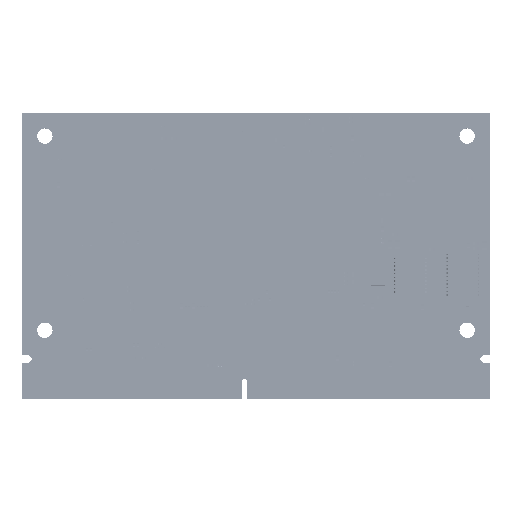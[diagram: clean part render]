
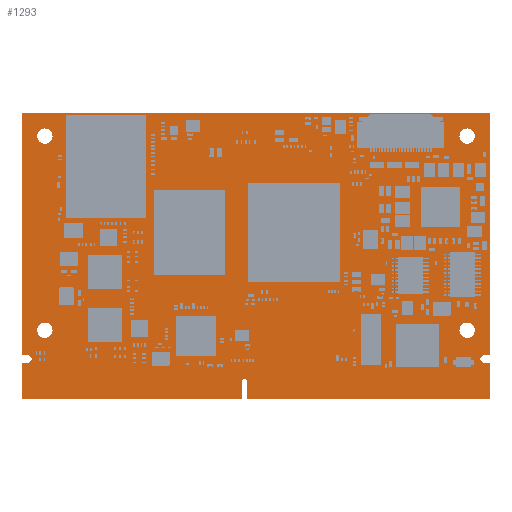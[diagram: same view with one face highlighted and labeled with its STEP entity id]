
A CAD part, top view. The second image highlights one B-rep face of the part: STEP entity #1293.
In plain terms, the highlighted planar face has unit normal (0, 0, 1).
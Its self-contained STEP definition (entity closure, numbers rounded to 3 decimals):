
#434=DIRECTION('',(1.,0.,0.));
#435=VECTOR('',#434,1.);
#436=CARTESIAN_POINT('',(0.,7.7,1.2));
#437=LINE('',#436,#435);
#441=DIRECTION('',(0.,-1.,0.));
#442=VECTOR('',#441,42.3);
#443=CARTESIAN_POINT('',(0.,50.,1.2));
#444=LINE('',#443,#442);
#448=DIRECTION('',(-1.,0.,0.));
#449=VECTOR('',#448,82.);
#450=CARTESIAN_POINT('',(82.,50.,1.2));
#451=LINE('',#450,#449);
#455=DIRECTION('',(0.,1.,0.));
#456=VECTOR('',#455,42.3);
#457=CARTESIAN_POINT('',(82.,7.7,1.2));
#458=LINE('',#457,#456);
#462=DIRECTION('',(0.999,0.037,0.));
#463=VECTOR('',#462,1.091);
#464=CARTESIAN_POINT('',(80.91,7.66,1.2));
#465=LINE('',#464,#463);
#469=DIRECTION('',(0.707,0.707,0.));
#470=VECTOR('',#469,0.863);
#471=CARTESIAN_POINT('',(80.3,7.05,1.2));
#472=LINE('',#471,#470);
#476=DIRECTION('',(0.,1.,0.));
#477=VECTOR('',#476,0.2);
#478=CARTESIAN_POINT('',(80.3,6.85,1.2));
#479=LINE('',#478,#477);
#483=DIRECTION('',(-0.733,0.68,0.));
#484=VECTOR('',#483,0.955);
#485=CARTESIAN_POINT('',(81.,6.2,1.2));
#486=LINE('',#485,#484);
#490=DIRECTION('',(-1.,0.,0.));
#491=VECTOR('',#490,1.);
#492=CARTESIAN_POINT('',(82.,6.2,1.2));
#493=LINE('',#492,#491);
#497=DIRECTION('',(0.,1.,0.));
#498=VECTOR('',#497,6.2);
#499=CARTESIAN_POINT('',(82.,0.,1.2));
#500=LINE('',#499,#498);
#504=DIRECTION('',(1.,0.,0.));
#505=VECTOR('',#504,42.5);
#506=CARTESIAN_POINT('',(39.5,0.,1.2));
#507=LINE('',#506,#505);
#511=DIRECTION('',(0.013,-1.,0.));
#512=VECTOR('',#511,3.14);
#513=CARTESIAN_POINT('',(39.46,3.14,1.2));
#514=LINE('',#513,#512);
#518=DIRECTION('',(0.707,-0.707,0.));
#519=VECTOR('',#518,0.509);
#520=CARTESIAN_POINT('',(39.1,3.5,1.2));
#521=LINE('',#520,#519);
#525=DIRECTION('',(1.,0.,0.));
#526=VECTOR('',#525,0.2);
#527=CARTESIAN_POINT('',(38.9,3.5,1.2));
#528=LINE('',#527,#526);
#532=DIRECTION('',(0.707,0.707,0.));
#533=VECTOR('',#532,0.438);
#534=CARTESIAN_POINT('',(38.59,3.19,1.2));
#535=LINE('',#534,#533);
#539=DIRECTION('',(0.707,0.707,0.));
#540=VECTOR('',#539,0.127);
#541=CARTESIAN_POINT('',(38.5,3.1,1.2));
#542=LINE('',#541,#540);
#546=DIRECTION('',(0.,1.,0.));
#547=VECTOR('',#546,3.1);
#548=CARTESIAN_POINT('',(38.5,0.,1.2));
#549=LINE('',#548,#547);
#553=DIRECTION('',(1.,0.,0.));
#554=VECTOR('',#553,38.5);
#555=CARTESIAN_POINT('',(0.,0.,1.2));
#556=LINE('',#555,#554);
#560=DIRECTION('',(0.,-1.,0.));
#561=VECTOR('',#560,6.2);
#562=CARTESIAN_POINT('',(0.,6.2,1.2));
#563=LINE('',#562,#561);
#567=DIRECTION('',(-0.999,-0.037,0.));
#568=VECTOR('',#567,1.091);
#569=CARTESIAN_POINT('',(1.09,6.24,1.2));
#570=LINE('',#569,#568);
#574=DIRECTION('',(-0.707,-0.707,0.));
#575=VECTOR('',#574,0.863);
#576=CARTESIAN_POINT('',(1.7,6.85,1.2));
#577=LINE('',#576,#575);
#581=DIRECTION('',(0.,-1.,0.));
#582=VECTOR('',#581,0.2);
#583=CARTESIAN_POINT('',(1.7,7.05,1.2));
#584=LINE('',#583,#582);
#588=DIRECTION('',(0.733,-0.68,0.));
#589=VECTOR('',#588,0.955);
#590=CARTESIAN_POINT('',(1.,7.7,1.2));
#591=LINE('',#590,#589);
#595=CARTESIAN_POINT('',(4.,46.,1.2));
#596=DIRECTION('',(0.,0.,1.));
#597=DIRECTION('',(1.,0.,0.));
#598=AXIS2_PLACEMENT_3D('',#595,#596,#597);
#603=CARTESIAN_POINT('',(4.,46.,1.2));
#604=DIRECTION('',(0.,0.,1.));
#605=DIRECTION('',(-1.,0.,0.));
#606=AXIS2_PLACEMENT_3D('',#603,#604,#605);
#611=CARTESIAN_POINT('',(4.,12.,1.2));
#612=DIRECTION('',(0.,0.,1.));
#613=DIRECTION('',(1.,0.,0.));
#614=AXIS2_PLACEMENT_3D('',#611,#612,#613);
#619=CARTESIAN_POINT('',(4.,12.,1.2));
#620=DIRECTION('',(0.,0.,1.));
#621=DIRECTION('',(-1.,0.,0.));
#622=AXIS2_PLACEMENT_3D('',#619,#620,#621);
#627=CARTESIAN_POINT('',(78.,12.,1.2));
#628=DIRECTION('',(0.,0.,1.));
#629=DIRECTION('',(1.,0.,0.));
#630=AXIS2_PLACEMENT_3D('',#627,#628,#629);
#635=CARTESIAN_POINT('',(78.,12.,1.2));
#636=DIRECTION('',(0.,0.,1.));
#637=DIRECTION('',(-1.,0.,0.));
#638=AXIS2_PLACEMENT_3D('',#635,#636,#637);
#643=CARTESIAN_POINT('',(78.,46.,1.2));
#644=DIRECTION('',(0.,0.,1.));
#645=DIRECTION('',(1.,0.,0.));
#646=AXIS2_PLACEMENT_3D('',#643,#644,#645);
#651=CARTESIAN_POINT('',(78.,46.,1.2));
#652=DIRECTION('',(0.,0.,1.));
#653=DIRECTION('',(-1.,0.,0.));
#654=AXIS2_PLACEMENT_3D('',#651,#652,#653);
#761=CARTESIAN_POINT('',(0.,7.7,1.2));
#762=CARTESIAN_POINT('',(1.,7.7,1.2));
#763=VERTEX_POINT('',#761);
#764=VERTEX_POINT('',#762);
#765=CARTESIAN_POINT('',(1.7,7.05,1.2));
#766=VERTEX_POINT('',#765);
#767=CARTESIAN_POINT('',(1.7,6.85,1.2));
#768=VERTEX_POINT('',#767);
#769=CARTESIAN_POINT('',(1.09,6.24,1.2));
#770=VERTEX_POINT('',#769);
#771=CARTESIAN_POINT('',(0.,6.2,1.2));
#772=VERTEX_POINT('',#771);
#773=CARTESIAN_POINT('',(0.,0.,1.2));
#774=VERTEX_POINT('',#773);
#775=CARTESIAN_POINT('',(38.5,0.,1.2));
#776=VERTEX_POINT('',#775);
#777=CARTESIAN_POINT('',(38.5,3.1,1.2));
#778=VERTEX_POINT('',#777);
#779=CARTESIAN_POINT('',(38.59,3.19,1.2));
#780=VERTEX_POINT('',#779);
#781=CARTESIAN_POINT('',(38.9,3.5,1.2));
#782=VERTEX_POINT('',#781);
#783=CARTESIAN_POINT('',(39.1,3.5,1.2));
#784=VERTEX_POINT('',#783);
#785=CARTESIAN_POINT('',(39.46,3.14,1.2));
#786=VERTEX_POINT('',#785);
#787=CARTESIAN_POINT('',(39.5,0.,1.2));
#788=VERTEX_POINT('',#787);
#789=CARTESIAN_POINT('',(82.,0.,1.2));
#790=VERTEX_POINT('',#789);
#791=CARTESIAN_POINT('',(82.,6.2,1.2));
#792=VERTEX_POINT('',#791);
#793=CARTESIAN_POINT('',(81.,6.2,1.2));
#794=VERTEX_POINT('',#793);
#795=CARTESIAN_POINT('',(80.3,6.85,1.2));
#796=VERTEX_POINT('',#795);
#797=CARTESIAN_POINT('',(80.3,7.05,1.2));
#798=VERTEX_POINT('',#797);
#799=CARTESIAN_POINT('',(80.91,7.66,1.2));
#800=VERTEX_POINT('',#799);
#801=CARTESIAN_POINT('',(82.,7.7,1.2));
#802=VERTEX_POINT('',#801);
#803=CARTESIAN_POINT('',(82.,50.,1.2));
#804=VERTEX_POINT('',#803);
#805=CARTESIAN_POINT('',(0.,50.,1.2));
#806=VERTEX_POINT('',#805);
#811=CARTESIAN_POINT('',(5.35,46.,1.2));
#812=CARTESIAN_POINT('',(2.65,46.,1.2));
#813=VERTEX_POINT('',#811);
#814=VERTEX_POINT('',#812);
#819=CARTESIAN_POINT('',(5.35,12.,1.2));
#820=CARTESIAN_POINT('',(2.65,12.,1.2));
#821=VERTEX_POINT('',#819);
#822=VERTEX_POINT('',#820);
#827=CARTESIAN_POINT('',(79.35,12.,1.2));
#828=CARTESIAN_POINT('',(76.65,12.,1.2));
#829=VERTEX_POINT('',#827);
#830=VERTEX_POINT('',#828);
#835=CARTESIAN_POINT('',(79.35,46.,1.2));
#836=CARTESIAN_POINT('',(76.65,46.,1.2));
#837=VERTEX_POINT('',#835);
#838=VERTEX_POINT('',#836);
#1239=CARTESIAN_POINT('',(0.,0.,1.2));
#1240=DIRECTION('',(0.,0.,1.));
#1241=DIRECTION('',(1.,0.,0.));
#1242=AXIS2_PLACEMENT_3D('',#1239,#1240,#1241);
#1243=PLANE('',#1242);
#1244=ORIENTED_EDGE('',*,*,#925,.F.);
#1245=ORIENTED_EDGE('',*,*,#940,.F.);
#1246=ORIENTED_EDGE('',*,*,#954,.F.);
#1247=ORIENTED_EDGE('',*,*,#968,.F.);
#1248=ORIENTED_EDGE('',*,*,#982,.F.);
#1249=ORIENTED_EDGE('',*,*,#996,.F.);
#1250=ORIENTED_EDGE('',*,*,#1010,.F.);
#1251=ORIENTED_EDGE('',*,*,#1024,.F.);
#1252=ORIENTED_EDGE('',*,*,#1038,.F.);
#1253=ORIENTED_EDGE('',*,*,#1052,.F.);
#1254=ORIENTED_EDGE('',*,*,#1066,.F.);
#1255=ORIENTED_EDGE('',*,*,#1080,.F.);
#1256=ORIENTED_EDGE('',*,*,#1094,.F.);
#1257=ORIENTED_EDGE('',*,*,#1108,.F.);
#1258=ORIENTED_EDGE('',*,*,#1122,.F.);
#1259=ORIENTED_EDGE('',*,*,#1136,.F.);
#1260=ORIENTED_EDGE('',*,*,#1150,.F.);
#1261=ORIENTED_EDGE('',*,*,#1164,.F.);
#1262=ORIENTED_EDGE('',*,*,#1178,.F.);
#1263=ORIENTED_EDGE('',*,*,#1192,.F.);
#1264=ORIENTED_EDGE('',*,*,#1206,.F.);
#1265=ORIENTED_EDGE('',*,*,#1220,.F.);
#1266=ORIENTED_EDGE('',*,*,#1233,.F.);
#1267=EDGE_LOOP('',(#1244,#1245,#1246,#1247,#1248,#1249,#1250,#1251,#1252,#1253,
#1254,#1255,#1256,#1257,#1258,#1259,#1260,#1261,#1262,#1263,#1264,#1265,#1266));
#1268=FACE_OUTER_BOUND('',#1267,.F.);
#1270=ORIENTED_EDGE('',*,*,#1269,.T.);
#1272=ORIENTED_EDGE('',*,*,#1271,.T.);
#1273=EDGE_LOOP('',(#1270,#1272));
#1274=FACE_BOUND('',#1273,.F.);
#1276=ORIENTED_EDGE('',*,*,#1275,.T.);
#1278=ORIENTED_EDGE('',*,*,#1277,.T.);
#1279=EDGE_LOOP('',(#1276,#1278));
#1280=FACE_BOUND('',#1279,.F.);
#1282=ORIENTED_EDGE('',*,*,#1281,.T.);
#1284=ORIENTED_EDGE('',*,*,#1283,.T.);
#1285=EDGE_LOOP('',(#1282,#1284));
#1286=FACE_BOUND('',#1285,.F.);
#1288=ORIENTED_EDGE('',*,*,#1287,.T.);
#1290=ORIENTED_EDGE('',*,*,#1289,.T.);
#1291=EDGE_LOOP('',(#1288,#1290));
#1292=FACE_BOUND('',#1291,.F.);
#599=CIRCLE('',#598,1.35);
#607=CIRCLE('',#606,1.35);
#615=CIRCLE('',#614,1.35);
#623=CIRCLE('',#622,1.35);
#631=CIRCLE('',#630,1.35);
#639=CIRCLE('',#638,1.35);
#647=CIRCLE('',#646,1.35);
#655=CIRCLE('',#654,1.35);
#925=EDGE_CURVE('',#763,#764,#437,.T.);
#940=EDGE_CURVE('',#806,#763,#444,.T.);
#954=EDGE_CURVE('',#804,#806,#451,.T.);
#968=EDGE_CURVE('',#802,#804,#458,.T.);
#982=EDGE_CURVE('',#800,#802,#465,.T.);
#996=EDGE_CURVE('',#798,#800,#472,.T.);
#1010=EDGE_CURVE('',#796,#798,#479,.T.);
#1024=EDGE_CURVE('',#794,#796,#486,.T.);
#1038=EDGE_CURVE('',#792,#794,#493,.T.);
#1052=EDGE_CURVE('',#790,#792,#500,.T.);
#1066=EDGE_CURVE('',#788,#790,#507,.T.);
#1080=EDGE_CURVE('',#786,#788,#514,.T.);
#1094=EDGE_CURVE('',#784,#786,#521,.T.);
#1108=EDGE_CURVE('',#782,#784,#528,.T.);
#1122=EDGE_CURVE('',#780,#782,#535,.T.);
#1136=EDGE_CURVE('',#778,#780,#542,.T.);
#1150=EDGE_CURVE('',#776,#778,#549,.T.);
#1164=EDGE_CURVE('',#774,#776,#556,.T.);
#1178=EDGE_CURVE('',#772,#774,#563,.T.);
#1192=EDGE_CURVE('',#770,#772,#570,.T.);
#1206=EDGE_CURVE('',#768,#770,#577,.T.);
#1220=EDGE_CURVE('',#766,#768,#584,.T.);
#1233=EDGE_CURVE('',#764,#766,#591,.T.);
#1269=EDGE_CURVE('',#813,#814,#599,.T.);
#1271=EDGE_CURVE('',#814,#813,#607,.T.);
#1275=EDGE_CURVE('',#821,#822,#615,.T.);
#1277=EDGE_CURVE('',#822,#821,#623,.T.);
#1281=EDGE_CURVE('',#829,#830,#631,.T.);
#1283=EDGE_CURVE('',#830,#829,#639,.T.);
#1287=EDGE_CURVE('',#837,#838,#647,.T.);
#1289=EDGE_CURVE('',#838,#837,#655,.T.);
#1293=ADVANCED_FACE('',(#1268,#1274,#1280,#1286,#1292),#1243,.T.);
